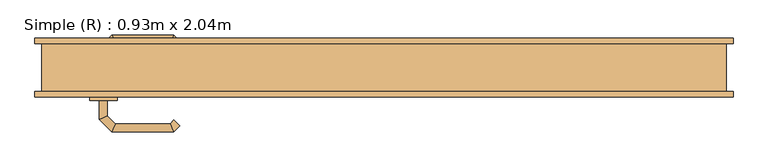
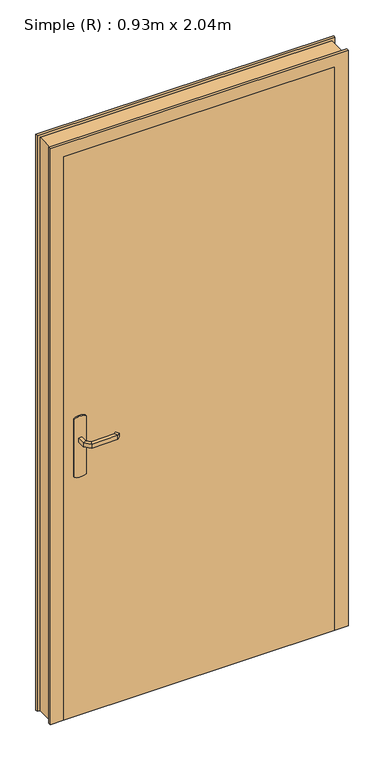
"""IFC4 building model written with IfcOpenShell, lengths in millimetres: door geometry, Simple (R) : 0.93m x 2.04m."""

from ifc_helpers import new_model, si_unit, point, frame, frame_2d, origin, origin_with_axes, place, context, project, spatial, polyline, circle_curve, ellipse_curve, trimmed, segment, composite_curve, outline, extrude, faceted_brep, source, transform, mapped, element, save
from ifc_brep_helpers import plane_surface, cylinder_surface, advanced_brep


def simple_r_0_93m_x_2_04m_08e01e11(model_context):
    return source(origin(), model_context, "Body", "SolidModel", [
        advanced_brep(
        [(-404.0, 2.0, 993.0), (-404.0, 2.0, 1007.0), (-416.0, 2.0, 1007.0), (-416.0, 2.0, 993.0), (-404.0, 24.4852045, 993.0), (-404.0, 24.4852045, 1007.0), (-416.0, 29.4557673, 1007.0), (-416.0, 29.4557673, 993.0), (-392.5147186, 35.9704859, 993.0), (-392.5147186, 35.9704859, 1007.0), (-397.4852814, 47.9704859, 1007.0), (-397.4852814, 47.9704859, 993.0), (-312.4394977, 35.9704859, 993.0), (-312.4394977, 35.9704859, 1007.0), (-307.468935, 47.9704859, 1007.0), (-307.468935, 47.9704859, 993.0), (-307.1257892, 30.6567774, 993.0), (-298.6405078, 39.1420588, 993.0), (-298.6405078, 39.1420588, 1007.0), (-307.1257892, 30.6567774, 1007.0)],
        [
            (0, 1),
            (1, 2, circle_curve(frame((-410.0, 2.0, 986.9542278), z_axis=(0.0, -1.0, 0.0), x_axis=(-1.0, 0.0, 0.0)), 20.9244589)),
            (2, 3),
            (3, 0, circle_curve(frame((-410.0, 2.0, 1013.0457722), z_axis=(0.0, -1.0, 0.0), x_axis=(-1.0, 0.0, 0.0)), 20.9244589)),
            (0, 4),
            (4, 5),
            (5, 1),
            (5, 6, ellipse_curve(frame((-410.0, 26.9704859, 986.9542278), z_axis=(-0.38268343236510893, -0.9238795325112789, 0.0), x_axis=(0.9238795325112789, -0.3826834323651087, 0.0)), 22.6484711, 20.9244589)),
            (6, 2),
            (6, 7),
            (7, 3),
            (7, 4, ellipse_curve(frame((-410.0, 26.9704859, 1013.0457722), z_axis=(-0.38268343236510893, -0.9238795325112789, 0.0), x_axis=(0.9238795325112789, -0.3826834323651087, 0.0)), 22.6484711, 20.9244589)),
            (4, 8),
            (8, 9),
            (9, 5),
            (9, 10, ellipse_curve(frame((-395.0, 41.9704859, 986.9542278), z_axis=(-0.9238795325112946, -0.38268343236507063, 0.0), x_axis=(0.3826834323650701, -0.9238795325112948, 0.0)), 22.6484711, 20.9244589)),
            (10, 6),
            (10, 11),
            (11, 7),
            (11, 8, ellipse_curve(frame((-395.0, 41.9704859, 1013.0457722), z_axis=(-0.9238795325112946, -0.38268343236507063, 0.0), x_axis=(0.3826834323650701, -0.9238795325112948, 0.0)), 22.6484711, 20.9244589)),
            (8, 12),
            (12, 13),
            (13, 9),
            (13, 14, ellipse_curve(frame((-309.9542163, 41.9704859, 986.9542278), z_axis=(-0.9238795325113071, 0.38268343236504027, 0.0), x_axis=(-0.38268343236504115, -0.9238795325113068, 0.0)), 22.6484711, 20.9244589)),
            (14, 10),
            (14, 15),
            (15, 11),
            (15, 12, ellipse_curve(frame((-309.9542163, 41.9704859, 1013.0457722), z_axis=(-0.9238795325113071, 0.38268343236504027, 0.0), x_axis=(-0.38268343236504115, -0.9238795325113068, 0.0)), 22.6484711, 20.9244589)),
            (16, 17, circle_curve(frame((-302.8831485, 34.8994181, 1013.0457722), z_axis=(0.7071067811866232, -0.7071067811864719, 0.0), x_axis=(0.7071067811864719, 0.7071067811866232, 0.0)), 20.9244589)),
            (17, 18),
            (18, 19, circle_curve(frame((-302.8831485, 34.8994181, 986.9542278), z_axis=(0.7071067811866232, -0.7071067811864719, 0.0), x_axis=(0.7071067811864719, 0.7071067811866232, 0.0)), 20.9244589)),
            (19, 16),
            (12, 16),
            (19, 13),
            (18, 14),
            (17, 15),
        ],
        [
            plane_surface(frame((-419.2195445, 2.0, 1000.0), z_axis=(0.0, -1.0, 0.0), x_axis=(0.0, 0.0, 1.0))),
            plane_surface(frame((-404.0, 2.0, 993.0), z_axis=(1.0, 0.0, 0.0), x_axis=(0.0, 1.0, 0.0))),
            cylinder_surface(frame((-410.0, 2.0, 986.9542278), z_axis=(0.0, -1.0, 0.0), x_axis=(-1.0, 0.0, 0.0)), 20.9244589),
            plane_surface(frame((-416.0, 2.0, 1007.0), z_axis=(-1.0, 0.0, 0.0), x_axis=(0.0, 1.0, 0.0))),
            cylinder_surface(frame((-410.0, 2.0, 1013.0457722), z_axis=(0.0, -1.0, 0.0), x_axis=(-1.0, 0.0, 0.0)), 20.9244589),
            plane_surface(frame((-404.0, 24.4852045, 993.0), z_axis=(0.707106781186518, -0.707106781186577, 0.0), x_axis=(0.707106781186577, 0.707106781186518, 0.0))),
            cylinder_surface(frame((-410.0, 26.9704859, 986.9542278), z_axis=(-0.7071067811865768, -0.7071067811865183, 0.0), x_axis=(-0.7071067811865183, 0.7071067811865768, 0.0)), 20.9244589),
            plane_surface(frame((-416.0, 29.4557673, 1007.0), z_axis=(-0.7071067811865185, 0.7071067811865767, 0.0), x_axis=(0.7071067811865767, 0.7071067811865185, 0.0))),
            cylinder_surface(frame((-410.0, 26.9704859, 1013.0457722), z_axis=(-0.7071067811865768, -0.7071067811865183, 0.0), x_axis=(-0.7071067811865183, 0.7071067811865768, 0.0)), 20.9244589),
            plane_surface(frame((-392.5147186, 35.9704859, 993.0), z_axis=(0.0, -1.0, 0.0), x_axis=(1.0, 0.0, 0.0))),
            cylinder_surface(frame((-395.0, 41.9704859, 986.9542278), z_axis=(-1.0, 0.0, 0.0), x_axis=(0.0, 1.0, 0.0)), 20.9244589),
            plane_surface(frame((-397.4852814, 47.9704859, 1007.0), z_axis=(0.0, 1.0, 0.0), x_axis=(1.0, 0.0, 0.0))),
            cylinder_surface(frame((-395.0, 41.9704859, 1013.0457722), z_axis=(-1.0, 0.0, 0.0), x_axis=(0.0, 1.0, 0.0)), 20.9244589),
            plane_surface(frame((-302.8831485, 34.8994181, 990.7804555), z_axis=(0.7071067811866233, -0.7071067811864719, 0.0), x_axis=(0.7071067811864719, 0.7071067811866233, 0.0))),
            plane_surface(frame((-312.4394977, 35.9704859, 993.0), z_axis=(-0.707106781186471, -0.7071067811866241, 0.0), x_axis=(0.7071067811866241, -0.707106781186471, 0.0))),
            cylinder_surface(frame((-309.9542163, 41.9704859, 986.9542278), z_axis=(-0.7071067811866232, 0.7071067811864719, 0.0), x_axis=(0.7071067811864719, 0.7071067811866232, 0.0)), 20.9244589),
            plane_surface(frame((-307.468935, 47.9704859, 1007.0), z_axis=(0.7071067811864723, 0.7071067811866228, 0.0), x_axis=(0.7071067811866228, -0.7071067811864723, 0.0))),
            cylinder_surface(frame((-309.9542163, 41.9704859, 1013.0457722), z_axis=(-0.7071067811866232, 0.7071067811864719, 0.0), x_axis=(0.7071067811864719, 0.7071067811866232, 0.0)), 20.9244589),
        ],
        [
            (0, [[1, 2, 3, 4]]),
            (1, [[-1, 5, 6, 7]]),
            (2, [[-2, -7, 8, 9]]),
            (3, [[-3, -9, 10, 11]]),
            (4, [[-4, -11, 12, -5]]),
            (5, [[-6, 13, 14, 15]]),
            (6, [[-8, -15, 16, 17]]),
            (7, [[-10, -17, 18, 19]]),
            (8, [[-12, -19, 20, -13]]),
            (9, [[-14, 21, 22, 23]]),
            (10, [[-16, -23, 24, 25]]),
            (11, [[-18, -25, 26, 27]]),
            (12, [[-20, -27, 28, -21]]),
            (13, [[29, 30, 31, 32]]),
            (14, [[-22, 33, -32, 34]]),
            (15, [[-24, -34, -31, 35]]),
            (16, [[-26, -35, -30, 36]]),
            (17, [[-28, -36, -29, -33]]),
        ],
    ),
        advanced_brep(
        [(-416.0, -48.0, 1007.0), (-404.0, -48.0, 1007.0), (-404.0, -48.0, 993.0), (-416.0, -48.0, 993.0), (-416.0, -75.6509507, 1007.0), (-404.0, -70.680388, 1007.0), (-404.0, -70.680388, 993.0), (-416.0, -75.6509507, 993.0), (-397.62279, -94.0281607, 1007.0), (-392.6522273, -82.0281607, 1007.0), (-392.6522273, -82.0281607, 993.0), (-397.62279, -94.0281607, 993.0), (-307.496078, -94.0281607, 1007.0), (-312.4666408, -82.0281607, 1007.0), (-312.4666408, -82.0281607, 993.0), (-307.496078, -94.0281607, 993.0), (-298.6676509, -85.1997336, 1007.0), (-298.6676509, -85.1997336, 993.0), (-307.1529323, -76.7144522, 993.0), (-307.1529323, -76.7144522, 1007.0)],
        [
            (0, 1, circle_curve(frame((-410.0, -48.0, 986.9542278), z_axis=(0.0, 1.0, 0.0), x_axis=(1.0, 0.0, 0.0)), 20.9244589)),
            (1, 2),
            (2, 3, circle_curve(frame((-410.0, -48.0, 1013.0457722), z_axis=(0.0, 1.0, 0.0), x_axis=(1.0, 0.0, 0.0)), 20.9244589)),
            (3, 0),
            (0, 4),
            (4, 5, ellipse_curve(frame((-410.0, -73.1656693, 986.9542278), z_axis=(-0.3826834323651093, 0.9238795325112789, 0.0), x_axis=(0.9238795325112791, 0.38268343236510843, 0.0)), 22.6484711, 20.9244589)),
            (5, 1),
            (5, 6),
            (6, 2),
            (6, 7, ellipse_curve(frame((-410.0, -73.1656693, 1013.0457722), z_axis=(-0.3826834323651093, 0.9238795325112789, 0.0), x_axis=(0.9238795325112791, 0.38268343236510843, 0.0)), 22.6484711, 20.9244589)),
            (7, 3),
            (7, 4),
            (4, 8),
            (8, 9, ellipse_curve(frame((-395.1375086, -88.0281607, 986.9542278), z_axis=(-0.9238795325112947, 0.38268343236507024, 0.0), x_axis=(0.3826834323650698, 0.9238795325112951, 0.0)), 22.6484711, 20.9244589)),
            (9, 5),
            (9, 10),
            (10, 6),
            (10, 11, ellipse_curve(frame((-395.1375086, -88.0281607, 1013.0457722), z_axis=(-0.9238795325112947, 0.38268343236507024, 0.0), x_axis=(0.3826834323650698, 0.9238795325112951, 0.0)), 22.6484711, 20.9244589)),
            (11, 7),
            (11, 8),
            (8, 12),
            (12, 13, ellipse_curve(frame((-309.9813594, -88.0281607, 986.9542278), z_axis=(-0.9238795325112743, -0.3826834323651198, 0.0), x_axis=(-0.38268343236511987, 0.9238795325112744, 0.0)), 22.6484711, 20.9244589)),
            (13, 9),
            (13, 14),
            (14, 10),
            (14, 15, ellipse_curve(frame((-309.9813594, -88.0281607, 1013.0457722), z_axis=(-0.9238795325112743, -0.3826834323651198, 0.0), x_axis=(-0.38268343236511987, 0.9238795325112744, 0.0)), 22.6484711, 20.9244589)),
            (15, 11),
            (15, 12),
            (16, 17),
            (17, 18, circle_curve(frame((-302.9102916, -80.9570929, 1013.0457722), z_axis=(0.7071067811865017, 0.7071067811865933, 0.0), x_axis=(-0.7071067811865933, 0.7071067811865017, 0.0)), 20.9244589)),
            (18, 19),
            (19, 16, circle_curve(frame((-302.9102916, -80.9570929, 986.9542278), z_axis=(0.7071067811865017, 0.7071067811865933, 0.0), x_axis=(-0.7071067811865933, 0.7071067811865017, 0.0)), 20.9244589)),
            (12, 16),
            (19, 13),
            (18, 14),
            (17, 15),
        ],
        [
            plane_surface(frame((-419.2195445, -48.0, 1000.0), z_axis=(0.0, 1.0, 0.0), x_axis=(0.0, 0.0, -1.0))),
            cylinder_surface(frame((-410.0, -48.0, 986.9542278), z_axis=(0.0, 1.0, 0.0), x_axis=(1.0, 0.0, 0.0)), 20.9244589),
            plane_surface(frame((-404.0, -48.0, 1007.0), z_axis=(1.0, 0.0, 0.0), x_axis=(0.0, -1.0, 0.0))),
            cylinder_surface(frame((-410.0, -48.0, 1013.0457722), z_axis=(0.0, 1.0, 0.0), x_axis=(1.0, 0.0, 0.0)), 20.9244589),
            plane_surface(frame((-416.0, -48.0, 993.0), z_axis=(-1.0, 0.0, 0.0), x_axis=(0.0, -1.0, 0.0))),
            cylinder_surface(frame((-410.0, -73.1656693, 986.9542278), z_axis=(-0.7071067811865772, 0.7071067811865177, 0.0), x_axis=(0.7071067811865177, 0.7071067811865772, 0.0)), 20.9244589),
            plane_surface(frame((-404.0, -70.680388, 1007.0), z_axis=(0.7071067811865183, 0.7071067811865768, 0.0), x_axis=(0.7071067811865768, -0.7071067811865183, 0.0))),
            cylinder_surface(frame((-410.0, -73.1656693, 1013.0457722), z_axis=(-0.7071067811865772, 0.7071067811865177, 0.0), x_axis=(0.7071067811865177, 0.7071067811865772, 0.0)), 20.9244589),
            plane_surface(frame((-416.0, -75.6509507, 993.0), z_axis=(-0.707106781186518, -0.707106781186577, 0.0), x_axis=(0.707106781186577, -0.707106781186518, 0.0))),
            cylinder_surface(frame((-395.1375086, -88.0281607, 986.9542278), z_axis=(-1.0, 0.0, 0.0), x_axis=(0.0, 1.0, 0.0)), 20.9244589),
            plane_surface(frame((-392.6522273, -82.0281607, 1007.0), z_axis=(0.0, 1.0, 0.0), x_axis=(1.0, 0.0, 0.0))),
            cylinder_surface(frame((-395.1375086, -88.0281607, 1013.0457722), z_axis=(-1.0, 0.0, 0.0), x_axis=(0.0, 1.0, 0.0)), 20.9244589),
            plane_surface(frame((-397.62279, -94.0281607, 993.0), z_axis=(0.0, -1.0, 0.0), x_axis=(1.0, 0.0, 0.0))),
            plane_surface(frame((-302.9102916, -80.9570929, 1009.2195445), z_axis=(0.7071067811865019, 0.7071067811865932, 0.0), x_axis=(0.7071067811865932, -0.7071067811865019, 0.0))),
            cylinder_surface(frame((-309.9813594, -88.0281607, 986.9542278), z_axis=(-0.7071067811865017, -0.7071067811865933, 0.0), x_axis=(-0.7071067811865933, 0.7071067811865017, 0.0)), 20.9244589),
            plane_surface(frame((-312.4666408, -82.0281607, 1007.0), z_axis=(-0.7071067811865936, 0.7071067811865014, 0.0), x_axis=(0.7071067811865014, 0.7071067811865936, 0.0))),
            cylinder_surface(frame((-309.9813594, -88.0281607, 1013.0457722), z_axis=(-0.7071067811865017, -0.7071067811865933, 0.0), x_axis=(-0.7071067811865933, 0.7071067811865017, 0.0)), 20.9244589),
            plane_surface(frame((-307.496078, -94.0281607, 993.0), z_axis=(0.707106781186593, -0.7071067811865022, 0.0), x_axis=(0.7071067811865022, 0.707106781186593, 0.0))),
        ],
        [
            (0, [[1, 2, 3, 4]]),
            (1, [[-1, 5, 6, 7]]),
            (2, [[-2, -7, 8, 9]]),
            (3, [[-3, -9, 10, 11]]),
            (4, [[-4, -11, 12, -5]]),
            (5, [[-6, 13, 14, 15]]),
            (6, [[-8, -15, 16, 17]]),
            (7, [[-10, -17, 18, 19]]),
            (8, [[-12, -19, 20, -13]]),
            (9, [[-14, 21, 22, 23]]),
            (10, [[-16, -23, 24, 25]]),
            (11, [[-18, -25, 26, 27]]),
            (12, [[-20, -27, 28, -21]]),
            (13, [[29, 30, 31, 32]]),
            (14, [[-22, 33, -32, 34]]),
            (15, [[-24, -34, -31, 35]]),
            (16, [[-26, -35, -30, 36]]),
            (17, [[-28, -36, -29, -33]]),
        ],
    ),
        extrude(outline(composite_curve([segment(trimmed(circle_curve(frame_2d((1045.3589838, -410.0)), 40.0), [point((1080.0, -390.0))], [point((1080.0, -430.0))], False, "CARTESIAN"), True, "CONTINUOUS"), segment(polyline([(1080.0, -430.0), (870.0, -430.0)]), True, "CONTINUOUS"), segment(trimmed(circle_curve(frame_2d((904.6410162, -410.0)), 40.0), [point((870.0, -430.0))], [point((870.0, -390.0))], False, "CARTESIAN"), True, "CONTINUOUS"), segment(polyline([(870.0, -390.0), (1080.0, -390.0)]), True, "CONTINUOUS")], self_intersect=False)), frame((0.0, -3.0, 0.0), z_axis=(0.0, 1.0, 0.0), x_axis=(0.0, 0.0, 1.0)), (0.0, 0.0, 1.0), 5.0),
        extrude(outline(composite_curve([segment(trimmed(circle_curve(frame_2d((904.6410162, -410.0)), 40.0), [point((870.0, -430.0))], [point((870.0, -390.0))], False, "CARTESIAN"), True, "CONTINUOUS"), segment(polyline([(870.0, -390.0), (1080.0, -390.0)]), True, "CONTINUOUS"), segment(trimmed(circle_curve(frame_2d((1045.3589838, -410.0)), 40.0), [point((1080.0, -390.0))], [point((1080.0, -430.0))], False, "CARTESIAN"), True, "CONTINUOUS"), segment(polyline([(1080.0, -430.0), (870.0, -430.0)]), True, "CONTINUOUS")], self_intersect=False)), frame((0.0, -48.0, 0.0), z_axis=(0.0, 1.0, 0.0), x_axis=(0.0, 0.0, 1.0)), (0.0, 0.0, 1.0), 5.0),
        faceted_brep([(-500.0, -35.0, 0.0), (-500.0, 35.0, 0.0), (-510.0, 35.0, 0.0), (-510.0, 43.0, 0.0), (-450.0, 43.0, 0.0), (-450.0, -3.0, 0.0), (-465.0, -3.0, 0.0), (-465.0, -43.0, 0.0), (-510.0, -43.0, 0.0), (-510.0, -35.0, 0.0), (-500.0, -35.0, 2075.0), (-500.0, 35.0, 2075.0), (500.0, 35.0, 2075.0), (500.0, 35.0, 0.0), (510.0, 35.0, 0.0), (510.0, 35.0, 2085.0), (-510.0, 35.0, 2085.0), (-510.0, 43.0, 2085.0), (510.0, 43.0, 2085.0), (510.0, 43.0, 0.0), (450.0, 43.0, 0.0), (450.0, 43.0, 2025.0), (-450.0, 43.0, 2025.0), (-450.0, -3.0, 2025.0), (450.0, -3.0, 2025.0), (450.0, -3.0, 0.0), (465.0, -3.0, 0.0), (465.0, -3.0, 2040.0), (-465.0, -3.0, 2040.0), (-465.0, -43.0, 2040.0), (465.0, -43.0, 2040.0), (465.0, -43.0, 0.0), (510.0, -43.0, 0.0), (510.0, -43.0, 2085.0), (-510.0, -43.0, 2085.0), (-510.0, -35.0, 2085.0), (510.0, -35.0, 2085.0), (510.0, -35.0, 0.0), (500.0, -35.0, 0.0), (500.0, -35.0, 2075.0)], [[[0, 1, 2, 3, 4, 5, 6, 7, 8, 9]], [[1, 0, 10, 11]], [[2, 1, 11, 12, 13, 14, 15, 16]], [[3, 2, 16, 17]], [[4, 3, 17, 18, 19, 20, 21, 22]], [[5, 4, 22, 23]], [[6, 5, 23, 24, 25, 26, 27, 28]], [[7, 6, 28, 29]], [[8, 7, 29, 30, 31, 32, 33, 34]], [[9, 8, 34, 35]], [[0, 9, 35, 36, 37, 38, 39, 10]], [[11, 10, 39, 12]], [[17, 16, 15, 18]], [[23, 22, 21, 24]], [[29, 28, 27, 30]], [[35, 34, 33, 36]], [[38, 37, 32, 31, 26, 25, 20, 19, 14, 13]], [[12, 39, 38, 13]], [[18, 15, 14, 19]], [[24, 21, 20, 25]], [[30, 27, 26, 31]], [[36, 33, 32, 37]]]),
        extrude(outline(polyline([(465.0, -43.0), (-465.0, -43.0), (-465.0, -3.0), (465.0, -3.0), (465.0, -43.0)])), origin_with_axes(), (0.0, 0.0, 1.0), 2040.0),
    ])


if __name__ == "__main__":
    model = new_model("IFC4")
    model_context = context("Model", 3, world=origin())
    ifc_project = project(units=[si_unit("LENGTHUNIT", "METRE", prefix="MILLI")], contexts=[model_context])
    site = spatial("IfcSite", under=ifc_project)
    building = spatial("IfcBuilding", under=site)
    placement = place(None, origin())
    simple_r_0_93m_x_2_04m_shape = simple_r_0_93m_x_2_04m_08e01e11(model_context)
    element("IfcDoor", 1, ObjectType="Simple (R) : 0.93m x 2.04m", at=placement, inside=building, context=model_context, shape_type="MappedRepresentation", body=[
        mapped(simple_r_0_93m_x_2_04m_shape, transform((0.0, 0.0, 0.0), x_axis=(1.0, 0.0, 0.0), y_axis=(0.0, 1.0, 0.0), z_axis=(0.0, 0.0, 1.0))),
    ])
    save(model, "model.ifc")
